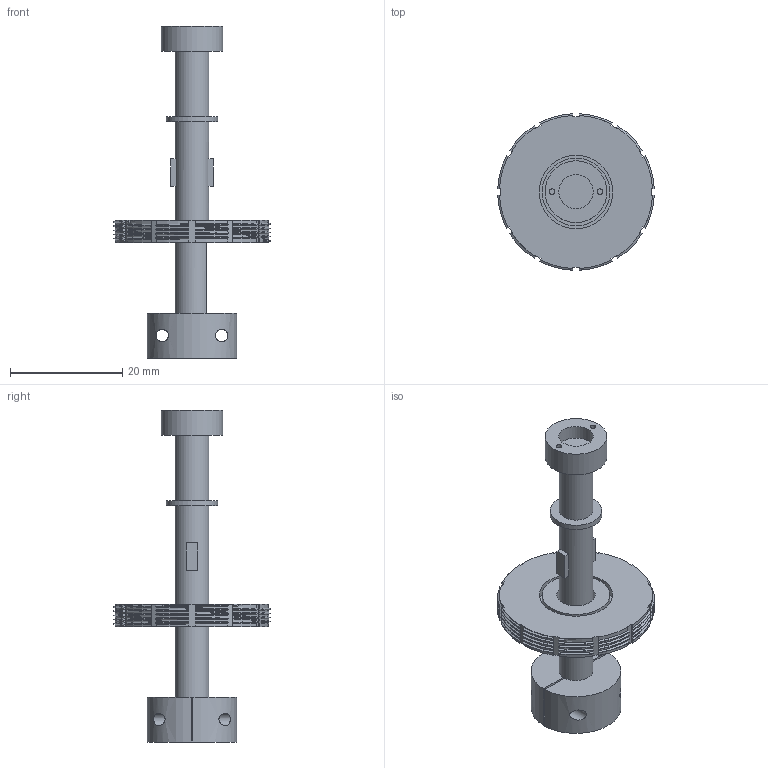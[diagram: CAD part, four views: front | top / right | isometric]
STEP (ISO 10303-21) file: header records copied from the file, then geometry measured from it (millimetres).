
FILE_DESCRIPTION(('Open CASCADE Model'),'2;1');
FILE_NAME('Open CASCADE Shape Model','2026-09-24T08:21:24',('Author'),( 'Open CASCADE'),'Open CASCADE STEP processor 7.8','Open CASCADE 7.8' ,'Unknown');
FILE_SCHEMA(('AUTOMOTIVE_DESIGN { 1 0 10303 214 1 1 1 1 }'));
Length unit declared in the file: millimetre
Products named in the file (5): Open CASCADE STEP translator 7.8 5; Open CASCADE STEP translator 7.8 5.1; Open CASCADE STEP translator 7.8 5.2; Open CASCADE STEP translator 7.8 5.3; Open CASCADE STEP translator 7.8 5.4
Assembly tree (4 placements, depth 2):
  Open CASCADE STEP translator 7.8 5
    Open CASCADE STEP translator 7.8 5.1
    Open CASCADE STEP translator 7.8 5.2
    Open CASCADE STEP translator 7.8 5.3
    Open CASCADE STEP translator 7.8 5.4
Bounding box: 27.86 x 27.86 x 59.1 mm (x, y, z)
Volume: 4851 mm3; surface area: 4831.3 mm2
Topology: 4 solids, 4 shells, 352 faces, 987 edges, 658 vertices
Faces by surface type: bspline 171, cylinder 95, plane 86
Full cylindrical faces by diameter (mm): 1 x2, 1.7 x2, 2.2 x4, 6 x2, 6.1 x1, 6.8 x1, 9.2 x1, 11 x1, 12.08 x1, 13.1 x1
Entity records: 67799 total; most frequent: CARTESIAN_POINT 51260, ORIENTED_EDGE 1974, PCURVE 1974, DEFINITIONAL_REPRESENTATION 1974, DIRECTION 1880, B_SPLINE_CURVE_WITH_KNOTS 1537, LINE 1256, VECTOR 1256
